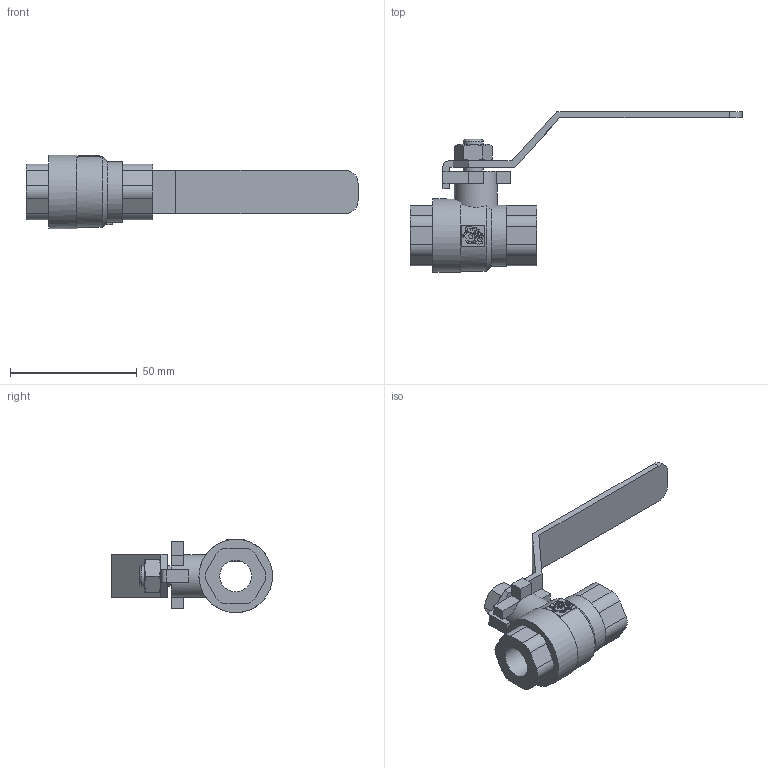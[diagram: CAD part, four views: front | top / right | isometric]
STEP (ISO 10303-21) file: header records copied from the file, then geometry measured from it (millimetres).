
FILE_DESCRIPTION(('STEP AP203'), '1');
FILE_NAME('7014-008-63', '', ('UNSPECIFIED'), ('UNSPECIFIED'), 'C3D Converter', 'C3D Toolkit', '');
FILE_SCHEMA(('CONFIG_CONTROL_DESIGN'));
Length unit declared in the file: millimetre
Bounding box: 131 x 63.5 x 29 mm (x, y, z)
Volume: 30143.8 mm3; surface area: 13905.3 mm2
Topology: 10 solids, 10 shells, 919 faces, 2680 edges, 1787 vertices
Faces by surface type: plane 893, cylinder 22, cone 3, torus 1
Full cylindrical faces by diameter (mm): 8 x2, 12.5 x1, 17 x1, 24 x1, 29 x1
Entity records: 38120 total; most frequent: CARTESIAN_POINT 6314, ORIENTED_EDGE 5342, DIRECTION 4550, EDGE_CURVE 2671, LINE 2590, VECTOR 2590, VERTEX_POINT 1787, AXIS2_PLACEMENT_3D 980
